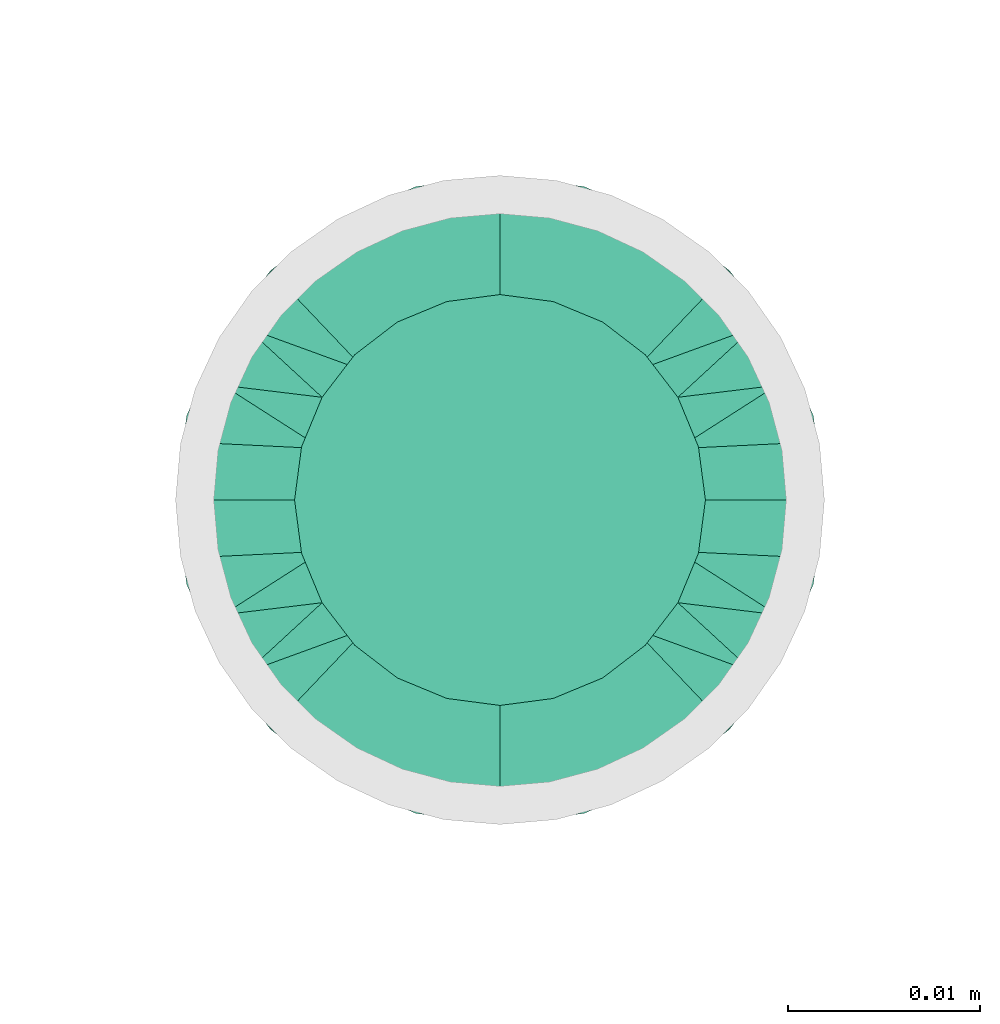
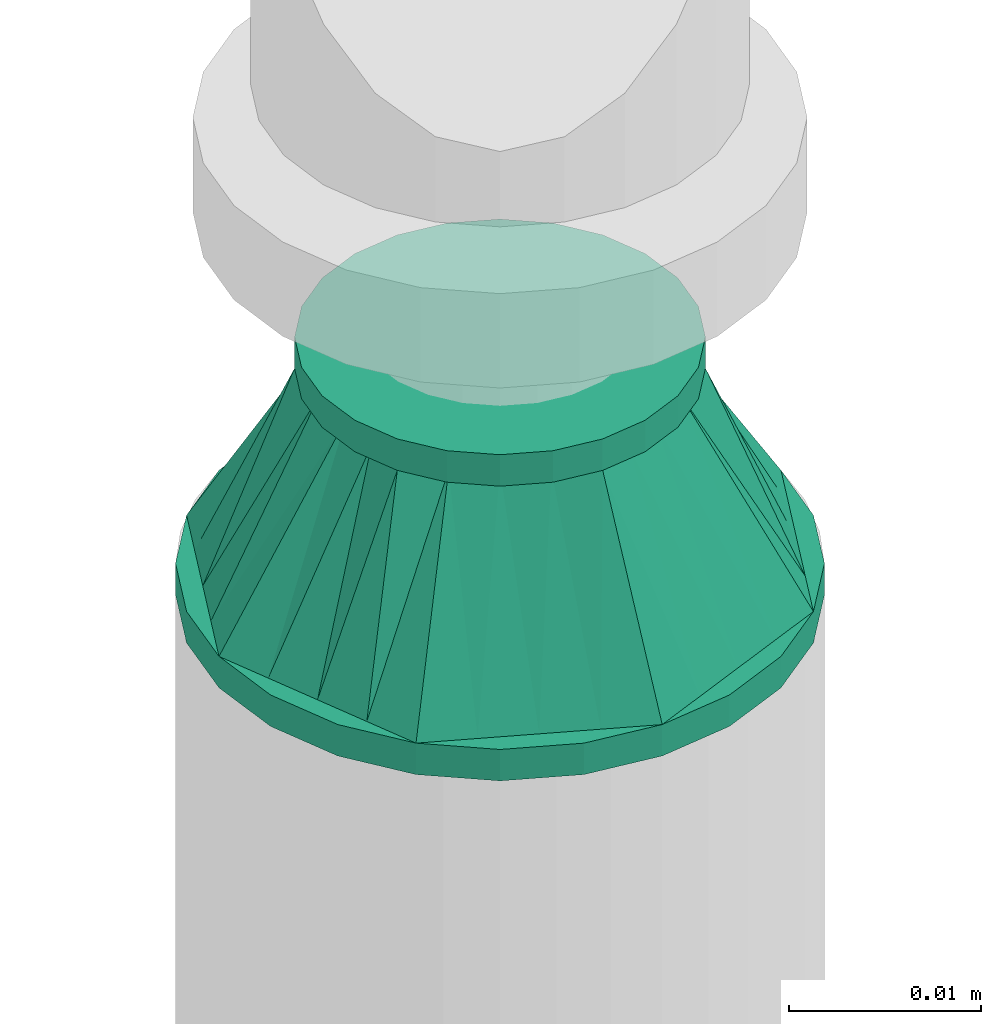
# One storey, part 23 of 44: 1 flow fitting.
"""IFC2X3 building model written with IfcOpenShell, lengths in millimetres."""

from ifc_helpers import new_model, entity, si_unit, converted_unit, derived_unit, direction, frame, origin_with_axes, place, context, subcontext, project, spatial, open_shell, surface_model, source, transform, mapped, type_object, element, save


model = new_model("IFC2X3")

# Units and contexts
model_context = context("Model", 3, precision=0.01, world=frame((0.0, 4.29681676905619e-09, 0.0)), true_north=direction((4.01073788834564e-13, 1.0)))
plan_context = context("Plan", 3, precision=0.01, world=frame((0.0, 4.29681676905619e-09, 0.0)), true_north=direction((4.01073788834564e-13, 1.0)))
body_context = subcontext(model_context, "Body", "Model", "MODEL_VIEW")
ifc_project = project(units=[converted_unit("PLANEANGLEUNIT", "DEGREE", entity("IfcPositiveLengthMeasure", 0.0174532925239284), si_unit("PLANEANGLEUNIT", "RADIAN"), dimensions=[0, 0, 0, 0, 0, 0, 0]), si_unit("AREAUNIT", "SQUARE_METRE"), si_unit("LENGTHUNIT", "METRE", prefix="MILLI"), si_unit("MASSUNIT", "GRAM", prefix="KILO"), si_unit("POWERUNIT", "WATT"), si_unit("PRESSUREUNIT", "PASCAL"), si_unit("FORCEUNIT", "NEWTON", prefix="KILO"), si_unit("ELECTRICVOLTAGEUNIT", "VOLT"), si_unit("ELECTRICCURRENTUNIT", "AMPERE"), si_unit("THERMODYNAMICTEMPERATUREUNIT", "DEGREE_CELSIUS"), si_unit("TIMEUNIT", "SECOND"), si_unit("VOLUMEUNIT", "CUBIC_METRE"), derived_unit("LINEARVELOCITYUNIT", [(si_unit("LENGTHUNIT", "METRE"), 1), (si_unit("TIMEUNIT", "SECOND"), -1)]), derived_unit("VOLUMETRICFLOWRATEUNIT", [(si_unit("VOLUMEUNIT", "CUBIC_METRE"), 1), (si_unit("TIMEUNIT", "SECOND"), -1)]), derived_unit("THERMALTRANSMITTANCEUNIT", [(si_unit("POWERUNIT", "WATT"), 1), (si_unit("THERMODYNAMICTEMPERATUREUNIT", "KELVIN"), -1), (si_unit("AREAUNIT", "SQUARE_METRE"), -1)]), derived_unit("SOUNDPRESSUREUNIT", [(si_unit("PRESSUREUNIT", "PASCAL"), 1)])], contexts=[model_context, plan_context])

# Site, building, storey
site_placement = place(None, frame((0.0, -4.29681676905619e-09, 0.0), z_axis=(0.0, 0.0, 1.0), x_axis=(1.0, 0.0, 0.0)))
site = spatial("IfcSite", under=ifc_project, at=site_placement, CompositionType="ELEMENT")
building_placement = place(site_placement, frame((0.0, 4.29681676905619e-09, 0.0), z_axis=(0.0, 0.0, 1.0), x_axis=(1.0, 0.0, 0.0)))
building = spatial("IfcBuilding", under=site, at=building_placement, Name="mc-building", CompositionType="ELEMENT")
storey_placement = place(building_placement, frame((0.0, 0.0, 207370.0), z_axis=(0.0, 0.0, 1.0), x_axis=(1.0, 0.0, 0.0)))
storey = spatial("IfcBuildingStorey", under=building, at=storey_placement, Name="Nivå E", CompositionType="ELEMENT", Elevation=207370.0)

# Flow fitting
pipe_fitting_type = type_object("IfcPipeFittingType", Name="magi_pipe_fe_reducer_centric_short_NOR", PredefinedType="TRANSITION")
shared_shape = source(origin_with_axes(), body_context, "Body", "SurfaceModel", [
    surface_model("IfcShellBasedSurfaceModel", [(-2.0, -7.56604, -7.56604), (-2.0, -10.33541, -2.76936), (-2.0, -5.35, -9.26647), (-2.0, 5.35, -9.26647), (-2.0, 10.33541, -2.76936), (-2.0, 7.56604, -7.56604), (12.4, 11.9501, 11.9501), (12.4, 0.0, 16.9), (12.4, 11.9501, -11.9501), (12.4, 16.9, 0.0), (0.0, -10.7, 0.0), (0.0, -5.35, 9.26647), (0.0, -5.35, -9.26647), (0.0, 10.7, 0.0), (12.4, 15.66253, -2.98753), (12.4, 8.96258, -13.18758), (0.0, 6.6875, -6.94985), (12.4, -15.66253, -2.98753), (12.4, -16.9, 0.0), (12.4, 5.97505, -14.42505), (0.0, 5.35, -9.26647), (12.4, 14.42505, -5.97505), (0.0, 8.025, -4.63324), (0.0, 9.3625, -2.31662), (0.0, -9.3625, -2.31662), (0.0, -8.025, -4.63324), (12.4, -14.42505, -5.97505), (12.4, 13.18758, -8.96258), (12.4, -13.18758, -8.96258), (12.4, -11.9501, -11.9501), (0.0, -6.6875, -6.94985), (12.4, -8.96258, -13.18758), (12.4, -5.97505, -14.42505), (12.4, -15.66253, 2.98753), (12.4, -8.96258, 13.18758), (0.0, -6.6875, 6.94985), (12.4, -11.9501, 11.9501), (12.4, 15.66253, 2.98753), (12.4, -5.97505, 14.42505), (12.4, -14.42505, 5.97505), (0.0, -8.025, 4.63324), (0.0, -9.3625, 2.31662), (0.0, 9.3625, 2.31662), (0.0, 8.025, 4.63324), (12.4, 14.42505, 5.97505), (12.4, -13.18758, 8.96258), (12.4, 13.18758, 8.96258), (0.0, 6.6875, 6.94985), (12.4, 8.96258, 13.18758), (0.0, 5.35, 9.26647), (12.4, 5.97505, 14.42505), (14.4, 4.37404, -16.32415), (14.4, 8.45, -14.63583), (14.4, 11.9501, -11.9501), (14.4, -8.45, -14.63583), (14.4, 16.32415, -4.37404), (14.4, 16.32415, 4.37404), (14.4, 14.63583, -8.45), (14.4, 0.0, -16.9), (14.4, -4.37404, -16.32415), (14.4, -11.9501, -11.9501), (14.4, -16.32415, -4.37404), (14.4, -14.63583, -8.45), (14.4, -16.32415, 4.37404), (14.4, 16.9, 0.0), (14.4, 14.63583, 8.45), (14.4, 11.9501, 11.9501), (14.4, 4.37404, 16.32415), (14.4, 8.45, 14.63583), (14.4, 0.0, 16.9), (14.4, -14.63583, 8.45), (14.4, -16.9, 0.0), (14.4, -8.45, 14.63583), (14.4, -11.9501, 11.9501), (14.4, -4.37404, 16.32415), (12.4, 4.37404, 16.32415), (12.4, -14.63583, 8.45), (12.4, 16.32415, 4.37404), (12.4, 8.45, 14.63583), (12.4, 14.63583, 8.45), (12.4, -8.45, 14.63583), (12.4, -4.37404, 16.32415), (12.4, -16.32415, 4.37404), (12.4, -16.32415, -4.37404), (12.4, -8.45, -14.63583), (12.4, 16.32415, -4.37404), (12.4, 14.63583, -8.45), (12.4, 8.45, -14.63583), (12.4, 4.37404, -16.32415), (12.4, 0.0, -16.9), (12.4, -14.63583, -8.45), (12.4, -4.37404, -16.32415), (-2.0, 2.76936, 10.33541), (-2.0, 0.0, 10.7), (-2.0, 5.35, 9.26647), (-2.0, 7.56604, 7.56604), (-2.0, 9.26647, 5.35), (-2.0, 10.33541, 2.76936), (-2.0, -10.33541, 2.76936), (-2.0, -2.76936, 10.33541), (-2.0, -7.56604, 7.56604), (-2.0, -5.35, 9.26647), (-2.0, -9.26647, 5.35), (-2.0, -10.7, 0.0), (-2.0, 9.26647, -5.35), (-2.0, 2.76936, -10.33541), (-2.0, -9.26647, -5.35), (-2.0, 0.0, -10.7), (-2.0, -2.76936, -10.33541), (-2.0, 10.7, 0.0), (0.0, 0.0, -10.7), (0.0, 2.76936, -10.33541), (0.0, 10.33541, -2.76936), (0.0, 7.56604, -7.56604), (0.0, -10.33541, -2.76936), (0.0, 9.26647, -5.35), (0.0, 0.0, 10.7), (0.0, -2.76936, -10.33541), (0.0, -7.56604, -7.56604), (0.0, -9.26647, -5.35), (0.0, 10.33541, 2.76936), (0.0, 9.26647, 5.35), (0.0, 7.56604, 7.56604), (0.0, 2.76936, 10.33541), (0.0, -7.56604, 7.56604), (0.0, -10.33541, 2.76936), (0.0, -9.26647, 5.35), (0.0, -2.76936, 10.33541), (0.0, 2.675, -9.26647), (0.0, -2.675, -9.26647), (12.4, 2.98753, -15.66253), (0.0, 0.0, -9.26647), (12.4, -2.98753, -15.66253), (0.0, -2.675, 9.26647), (0.0, 2.675, 9.26647), (12.4, -2.98753, 15.66253), (0.0, 0.0, 9.26647), (12.4, 2.98753, 15.66253)], [open_shell([[[0, 1, 2]], [[3, 4, 5]], [[6, 7, 8]], [[8, 9, 6]], [[10, 11, 12]], [[13, 9, 14]], [[15, 16, 8]], [[17, 18, 10]], [[15, 19, 20]], [[21, 22, 23]], [[24, 25, 26]], [[22, 21, 27]], [[28, 26, 25]], [[29, 30, 31]], [[12, 32, 31]], [[10, 18, 33]], [[34, 35, 36]], [[37, 9, 13]], [[34, 38, 11]], [[39, 40, 41]], [[42, 43, 44]], [[40, 39, 45]], [[46, 44, 43]], [[6, 47, 48]], [[49, 50, 48]], [[51, 52, 53]], [[54, 51, 53]], [[53, 55, 56]], [[55, 53, 57]], [[53, 56, 54]], [[58, 54, 59]], [[58, 51, 54]], [[60, 61, 62]], [[61, 60, 54]], [[54, 63, 61]], [[56, 55, 64]], [[56, 65, 66]], [[56, 66, 67]], [[67, 63, 54]], [[67, 66, 68]], [[63, 67, 69]], [[69, 70, 63]], [[71, 61, 63]], [[70, 72, 73]], [[70, 69, 72]], [[72, 69, 74]], [[54, 56, 67]], [[75, 76, 7]], [[77, 75, 78]], [[6, 79, 77]], [[6, 77, 78]], [[76, 75, 77]], [[80, 76, 36]], [[80, 81, 7]], [[7, 76, 80]], [[82, 76, 77]], [[82, 83, 18]], [[82, 77, 84]], [[77, 85, 8]], [[8, 85, 86]], [[8, 87, 88]], [[84, 77, 8]], [[88, 89, 8]], [[83, 29, 90]], [[29, 83, 84]], [[84, 89, 91]], [[83, 82, 84]], [[8, 89, 84]], [[85, 77, 9]], [[83, 61, 18]], [[90, 62, 83]], [[54, 29, 84]], [[90, 29, 60]], [[59, 84, 91]], [[83, 62, 61]], [[61, 71, 18]], [[59, 54, 84]], [[60, 29, 54]], [[60, 62, 90]], [[58, 59, 91]], [[91, 89, 58]], [[88, 51, 89]], [[87, 52, 88]], [[57, 8, 86]], [[87, 8, 53]], [[55, 86, 85]], [[87, 53, 52]], [[52, 51, 88]], [[64, 55, 85]], [[57, 86, 55]], [[57, 53, 8]], [[9, 64, 85]], [[89, 51, 58]], [[77, 56, 9]], [[79, 65, 77]], [[68, 6, 78]], [[79, 6, 66]], [[67, 78, 75]], [[77, 65, 56]], [[56, 64, 9]], [[67, 68, 78]], [[66, 6, 68]], [[66, 65, 79]], [[69, 67, 75]], [[75, 7, 69]], [[81, 74, 7]], [[80, 72, 81]], [[70, 36, 76]], [[80, 36, 73]], [[63, 76, 82]], [[80, 73, 72]], [[72, 74, 81]], [[71, 63, 82]], [[70, 76, 63]], [[70, 73, 36]], [[18, 71, 82]], [[7, 74, 69]], [[92, 1, 93]], [[94, 1, 92]], [[95, 96, 97]], [[95, 97, 94]], [[98, 93, 1]], [[99, 100, 101]], [[99, 93, 100]], [[100, 98, 102]], [[93, 98, 100]], [[98, 1, 103]], [[94, 97, 1]], [[1, 97, 4]], [[5, 4, 104]], [[4, 3, 1]], [[105, 1, 3]], [[1, 0, 106]], [[2, 107, 108]], [[2, 1, 105]], [[105, 107, 2]], [[4, 97, 109]], [[20, 110, 111]], [[112, 20, 113]], [[114, 20, 112]], [[112, 113, 115]], [[116, 114, 112]], [[110, 12, 117]], [[110, 20, 12]], [[118, 114, 119]], [[114, 118, 12]], [[20, 114, 12]], [[112, 13, 120]], [[120, 121, 122]], [[120, 122, 123]], [[116, 112, 123]], [[123, 122, 49]], [[116, 124, 114]], [[125, 124, 126]], [[10, 114, 125]], [[124, 127, 11]], [[125, 114, 124]], [[127, 124, 116]], [[123, 112, 120]], [[1, 114, 103]], [[106, 119, 1]], [[12, 0, 2]], [[106, 0, 118]], [[117, 2, 108]], [[1, 119, 114]], [[114, 10, 103]], [[117, 12, 2]], [[118, 0, 12]], [[118, 119, 106]], [[110, 117, 108]], [[108, 107, 110]], [[105, 111, 107]], [[3, 20, 105]], [[115, 5, 104]], [[3, 5, 113]], [[112, 104, 4]], [[3, 113, 20]], [[20, 111, 105]], [[13, 112, 4]], [[115, 104, 112]], [[115, 113, 5]], [[109, 13, 4]], [[107, 111, 110]], [[97, 120, 109]], [[96, 121, 97]], [[49, 95, 94]], [[96, 95, 122]], [[123, 94, 92]], [[97, 121, 120]], [[120, 13, 109]], [[123, 49, 94]], [[122, 95, 49]], [[122, 121, 96]], [[116, 123, 92]], [[92, 93, 116]], [[99, 127, 93]], [[101, 11, 99]], [[126, 100, 102]], [[101, 100, 124]], [[125, 102, 98]], [[101, 124, 11]], [[11, 127, 99]], [[10, 125, 98]], [[126, 102, 125]], [[126, 124, 100]], [[103, 10, 98]], [[93, 127, 116]], [[18, 7, 36]], [[18, 29, 8]], [[89, 8, 29]], [[18, 8, 7]], [[13, 11, 49]], [[13, 20, 12]], [[13, 12, 11]], [[24, 26, 17]], [[10, 24, 17]], [[16, 15, 20]], [[30, 12, 31]], [[23, 14, 21]], [[19, 128, 20]], [[27, 8, 16]], [[32, 12, 129]], [[30, 28, 25]], [[130, 131, 128]], [[129, 132, 32]], [[16, 22, 27]], [[13, 14, 23]], [[128, 19, 130]], [[130, 89, 131]], [[131, 132, 129]], [[89, 132, 131]], [[28, 30, 29]], [[42, 44, 37]], [[13, 42, 37]], [[35, 34, 11]], [[47, 49, 48]], [[41, 33, 39]], [[38, 133, 11]], [[45, 36, 35]], [[50, 49, 134]], [[47, 46, 43]], [[135, 136, 133]], [[134, 137, 50]], [[35, 40, 45]], [[10, 33, 41]], [[133, 38, 135]], [[135, 7, 136]], [[136, 137, 134]], [[7, 137, 136]], [[46, 47, 6]]])]),
])
flow_fitting_placement = place(storey_placement, frame((533500.0, 453009.83177, 3040.00555), z_axis=(1.0, 0.0, 0.0), x_axis=(0.0, 0.0, -1.0)))
element("IfcFlowFitting", 1, at=flow_fitting_placement, inside=storey, type_object=pipe_fitting_type, Name="magi_pipe_fe_reducer_centric_short_NOR", context=body_context, shape_type="MappedRepresentation", body=[
    mapped(shared_shape, transform((0.0, 0.0, 0.0), scale=1.0)),
])

save(model, "model.ifc")
